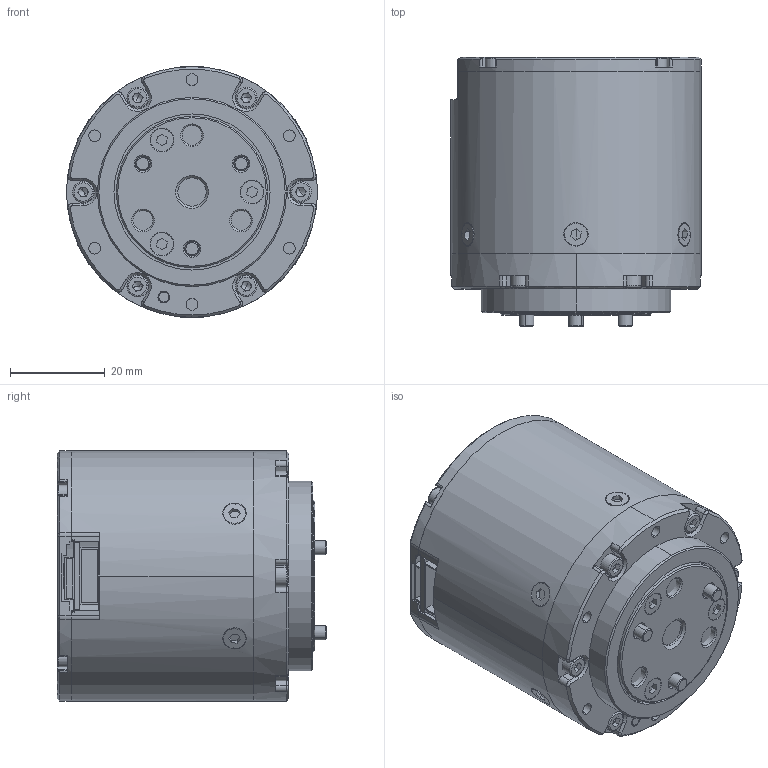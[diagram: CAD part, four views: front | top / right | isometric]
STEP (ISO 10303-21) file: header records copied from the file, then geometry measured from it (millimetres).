
FILE_DESCRIPTION (( 'STEP AP214' ), '1' );
FILE_NAME ('MG4036E-i36v3.STEP', '2024-02-02T02:19:26', ( 'zhang_jianheng@outlook.com' ), ( 'HP' ), 'SwSTEP 2.0', 'SolidWorks 2020', '' );
FILE_SCHEMA (( 'AUTOMOTIVE_DESIGN' ));
Length unit declared in the file: millimetre
Products named in the file (1): MG4036E-i36v3
Bounding box: 53 x 57 x 53 mm (x, y, z)
Volume: 102826.5 mm3; surface area: 33308.6 mm2
Topology: 34 solids, 34 shells, 1154 faces, 2803 edges, 1784 vertices
Faces by surface type: plane 497, cylinder 422, cone 141, bspline 82, torus 12
Entity records: 53055 total; most frequent: CARTESIAN_POINT 12812, DIRECTION 5758, ORIENTED_EDGE 5558, EDGE_CURVE 2779, AXIS2_PLACEMENT_3D 2130, VERTEX_POINT 1784, LINE 1498, VECTOR 1498
